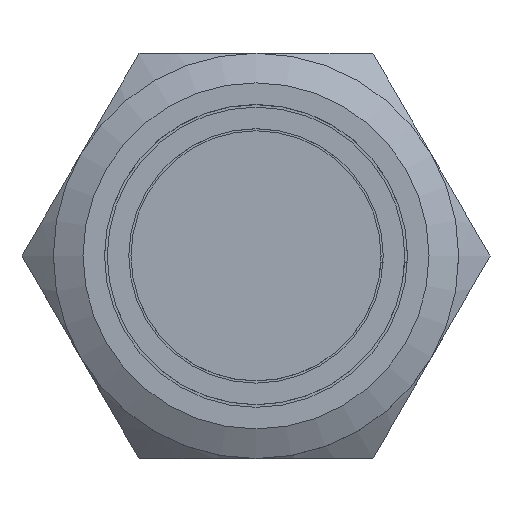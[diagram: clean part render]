
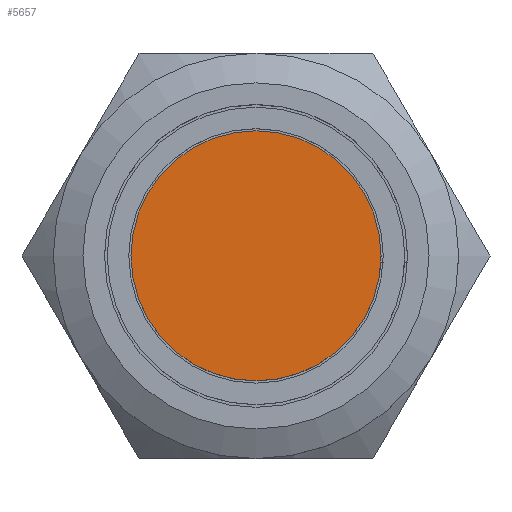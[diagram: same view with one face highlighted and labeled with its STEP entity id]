
A CAD part, top view. The second image highlights one B-rep face of the part: STEP entity #5657.
In plain terms, the highlighted planar face has unit normal (0, 0, 1).
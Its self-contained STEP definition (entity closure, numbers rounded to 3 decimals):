
#1033=CIRCLE('',#22753,5.8);
#4940=PLANE('',#22761);
#5657=ADVANCED_FACE('',(#6626),#4940,.T.);
#6626=FACE_OUTER_BOUND('',#7579,.T.);
#7579=EDGE_LOOP('',(#13060));
#13060=ORIENTED_EDGE('',*,*,#19847,.T.);
#17949=VERTEX_POINT('',#32344);
#19847=EDGE_CURVE('',#17949,#17949,#1033,.T.);
#22753=AXIS2_PLACEMENT_3D('',#32343,#24649,#24650);
#22761=AXIS2_PLACEMENT_3D('',#32360,#24667,#24668);
#24649=DIRECTION('',(0.,0.,1.));
#24650=DIRECTION('',(1.,0.,0.));
#24667=DIRECTION('',(0.,0.,1.));
#24668=DIRECTION('',(1.,0.,0.));
#32343=CARTESIAN_POINT('',(-22.901,19.658,17.15));
#32344=CARTESIAN_POINT('',(-17.101,19.658,17.15));
#32360=CARTESIAN_POINT('',(-22.901,19.658,17.15));
